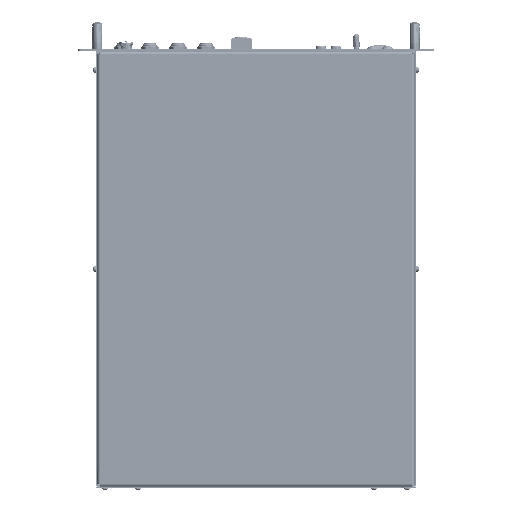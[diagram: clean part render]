
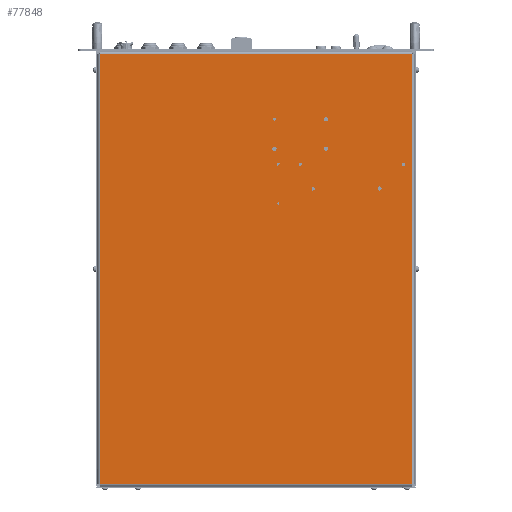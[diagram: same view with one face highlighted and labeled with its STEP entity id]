
A CAD part, front view. The second image highlights one B-rep face of the part: STEP entity #77848.
In plain terms, the highlighted planar face has unit normal (0, -1, 0).
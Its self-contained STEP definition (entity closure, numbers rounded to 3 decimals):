
#3781=FACE_BOUND('',#13418,.T.);
#3782=FACE_BOUND('',#13419,.T.);
#3783=FACE_BOUND('',#13420,.T.);
#3784=FACE_BOUND('',#13421,.T.);
#3785=FACE_BOUND('',#13422,.T.);
#3786=FACE_BOUND('',#13423,.T.);
#3787=FACE_BOUND('',#13424,.T.);
#3788=FACE_BOUND('',#13425,.T.);
#3789=FACE_BOUND('',#13426,.T.);
#3790=FACE_BOUND('',#13427,.T.);
#5541=CIRCLE('',#83008,2.);
#5543=CIRCLE('',#83011,2.);
#5545=CIRCLE('',#83014,2.);
#5547=CIRCLE('',#83017,2.);
#5549=CIRCLE('',#83020,1.5);
#5551=CIRCLE('',#83023,1.5);
#5553=CIRCLE('',#83026,2.);
#5555=CIRCLE('',#83029,2.);
#5557=CIRCLE('',#83032,2.);
#5559=CIRCLE('',#83035,2.);
#8941=FACE_OUTER_BOUND('',#13417,.T.);
#13417=EDGE_LOOP('',(#52910,#52911,#52912,#52913));
#13418=EDGE_LOOP('',(#52914));
#13419=EDGE_LOOP('',(#52915));
#13420=EDGE_LOOP('',(#52916));
#13421=EDGE_LOOP('',(#52917));
#13422=EDGE_LOOP('',(#52918));
#13423=EDGE_LOOP('',(#52919));
#13424=EDGE_LOOP('',(#52920));
#13425=EDGE_LOOP('',(#52921));
#13426=EDGE_LOOP('',(#52922));
#13427=EDGE_LOOP('',(#52923));
#18753=LINE('',#114082,#25822);
#18785=LINE('',#114323,#25854);
#18800=LINE('',#114424,#25869);
#18801=LINE('',#114426,#25870);
#25822=VECTOR('',#91623,10.);
#25854=VECTOR('',#91701,10.);
#25869=VECTOR('',#91752,10.);
#25870=VECTOR('',#91755,10.);
#32460=VERTEX_POINT('',#112617);
#32462=VERTEX_POINT('',#112623);
#32464=VERTEX_POINT('',#112629);
#32466=VERTEX_POINT('',#112635);
#32468=VERTEX_POINT('',#112641);
#32470=VERTEX_POINT('',#112647);
#32472=VERTEX_POINT('',#112653);
#32474=VERTEX_POINT('',#112659);
#32476=VERTEX_POINT('',#112665);
#32478=VERTEX_POINT('',#112671);
#32789=VERTEX_POINT('',#113776);
#32804=VERTEX_POINT('',#113937);
#32811=VERTEX_POINT('',#114081);
#32829=VERTEX_POINT('',#114315);
#40098=EDGE_CURVE('',#32460,#32460,#5541,.T.);
#40101=EDGE_CURVE('',#32462,#32462,#5543,.T.);
#40104=EDGE_CURVE('',#32464,#32464,#5545,.T.);
#40107=EDGE_CURVE('',#32466,#32466,#5547,.T.);
#40110=EDGE_CURVE('',#32468,#32468,#5549,.T.);
#40113=EDGE_CURVE('',#32470,#32470,#5551,.T.);
#40116=EDGE_CURVE('',#32472,#32472,#5553,.T.);
#40119=EDGE_CURVE('',#32474,#32474,#5555,.T.);
#40122=EDGE_CURVE('',#32476,#32476,#5557,.T.);
#40125=EDGE_CURVE('',#32478,#32478,#5559,.T.);
#40636=EDGE_CURVE('',#32811,#32804,#18753,.T.);
#40681=EDGE_CURVE('',#32789,#32829,#18785,.T.);
#40706=EDGE_CURVE('',#32811,#32829,#18800,.T.);
#40707=EDGE_CURVE('',#32804,#32789,#18801,.T.);
#52910=ORIENTED_EDGE('',*,*,#40636,.T.);
#52911=ORIENTED_EDGE('',*,*,#40707,.T.);
#52912=ORIENTED_EDGE('',*,*,#40681,.T.);
#52913=ORIENTED_EDGE('',*,*,#40706,.F.);
#52914=ORIENTED_EDGE('',*,*,#40098,.T.);
#52915=ORIENTED_EDGE('',*,*,#40101,.T.);
#52916=ORIENTED_EDGE('',*,*,#40104,.T.);
#52917=ORIENTED_EDGE('',*,*,#40107,.T.);
#52918=ORIENTED_EDGE('',*,*,#40110,.T.);
#52919=ORIENTED_EDGE('',*,*,#40113,.T.);
#52920=ORIENTED_EDGE('',*,*,#40116,.T.);
#52921=ORIENTED_EDGE('',*,*,#40119,.T.);
#52922=ORIENTED_EDGE('',*,*,#40122,.T.);
#52923=ORIENTED_EDGE('',*,*,#40125,.T.);
#75199=PLANE('',#83339);
#77848=ADVANCED_FACE('',(#8941,#3781,#3782,#3783,#3784,#3785,#3786,#3787,
#3788,#3789,#3790),#75199,.T.);
#83008=AXIS2_PLACEMENT_3D('',#112618,#90638,#90639);
#83011=AXIS2_PLACEMENT_3D('',#112624,#90645,#90646);
#83014=AXIS2_PLACEMENT_3D('',#112630,#90652,#90653);
#83017=AXIS2_PLACEMENT_3D('',#112636,#90659,#90660);
#83020=AXIS2_PLACEMENT_3D('',#112642,#90666,#90667);
#83023=AXIS2_PLACEMENT_3D('',#112648,#90673,#90674);
#83026=AXIS2_PLACEMENT_3D('',#112654,#90680,#90681);
#83029=AXIS2_PLACEMENT_3D('',#112660,#90687,#90688);
#83032=AXIS2_PLACEMENT_3D('',#112666,#90694,#90695);
#83035=AXIS2_PLACEMENT_3D('',#112672,#90701,#90702);
#83339=AXIS2_PLACEMENT_3D('',#114425,#91753,#91754);
#90638=DIRECTION('center_axis',(0.,1.,0.));
#90639=DIRECTION('ref_axis',(-1.,0.,0.));
#90645=DIRECTION('center_axis',(0.,1.,0.));
#90646=DIRECTION('ref_axis',(-1.,0.,0.));
#90652=DIRECTION('center_axis',(0.,1.,0.));
#90653=DIRECTION('ref_axis',(-1.,0.,0.));
#90659=DIRECTION('center_axis',(0.,1.,0.));
#90660=DIRECTION('ref_axis',(-1.,0.,0.));
#90666=DIRECTION('center_axis',(0.,1.,0.));
#90667=DIRECTION('ref_axis',(-1.,0.,0.));
#90673=DIRECTION('center_axis',(0.,1.,0.));
#90674=DIRECTION('ref_axis',(-1.,0.,0.));
#90680=DIRECTION('center_axis',(0.,1.,0.));
#90681=DIRECTION('ref_axis',(-1.,0.,0.));
#90687=DIRECTION('center_axis',(0.,1.,0.));
#90688=DIRECTION('ref_axis',(-1.,0.,0.));
#90694=DIRECTION('center_axis',(0.,1.,0.));
#90695=DIRECTION('ref_axis',(-1.,0.,0.));
#90701=DIRECTION('center_axis',(0.,1.,0.));
#90702=DIRECTION('ref_axis',(-1.,0.,0.));
#91623=DIRECTION('',(0.,0.,1.));
#91701=DIRECTION('',(0.,0.,-1.));
#91752=DIRECTION('',(-1.,0.,0.));
#91753=DIRECTION('center_axis',(0.,-1.,0.));
#91754=DIRECTION('ref_axis',(0.,0.,-1.));
#91755=DIRECTION('',(-1.,0.,0.));
#112617=CARTESIAN_POINT('',(27.,0.,163.));
#112618=CARTESIAN_POINT('Origin',(25.,0.,
163.));
#112623=CARTESIAN_POINT('',(97.,0.,203.));
#112624=CARTESIAN_POINT('Origin',(95.,0.,
203.));
#112629=CARTESIAN_POINT('',(202.5,0.,142.));
#112630=CARTESIAN_POINT('Origin',(200.5,0.,142.));
#112635=CARTESIAN_POINT('',(169.5,0.,109.));
#112636=CARTESIAN_POINT('Origin',(167.5,0.,109.));
#112641=CARTESIAN_POINT('',(31.5,0.,142.));
#112642=CARTESIAN_POINT('Origin',(30.,0.,142.));
#112647=CARTESIAN_POINT('',(31.5,0.,88.7));
#112648=CARTESIAN_POINT('Origin',(30.,0.,88.7));
#112653=CARTESIAN_POINT('',(79.5,0.,109.));
#112654=CARTESIAN_POINT('Origin',(77.5,0.,
109.));
#112659=CARTESIAN_POINT('',(62.5,0.,142.));
#112660=CARTESIAN_POINT('Origin',(60.5,0.,142.));
#112665=CARTESIAN_POINT('',(97.,0.,163.));
#112666=CARTESIAN_POINT('Origin',(95.,0.,
163.));
#112671=CARTESIAN_POINT('',(27.,0.,203.));
#112672=CARTESIAN_POINT('Origin',(25.,0.,
203.));
#113776=CARTESIAN_POINT('',(-211.,0.,291.));
#113937=CARTESIAN_POINT('',(211.,0.,291.));
#114081=CARTESIAN_POINT('',(211.,0.,-291.));
#114082=CARTESIAN_POINT('',(211.,0.,-141.369));
#114315=CARTESIAN_POINT('',(-211.,0.,-291.));
#114323=CARTESIAN_POINT('',(-211.,0.,149.631));
#114424=CARTESIAN_POINT('',(0.,0.,
-291.));
#114425=CARTESIAN_POINT('Origin',(0.,0.,
8.262));
#114426=CARTESIAN_POINT('',(0.,0.,291.));
